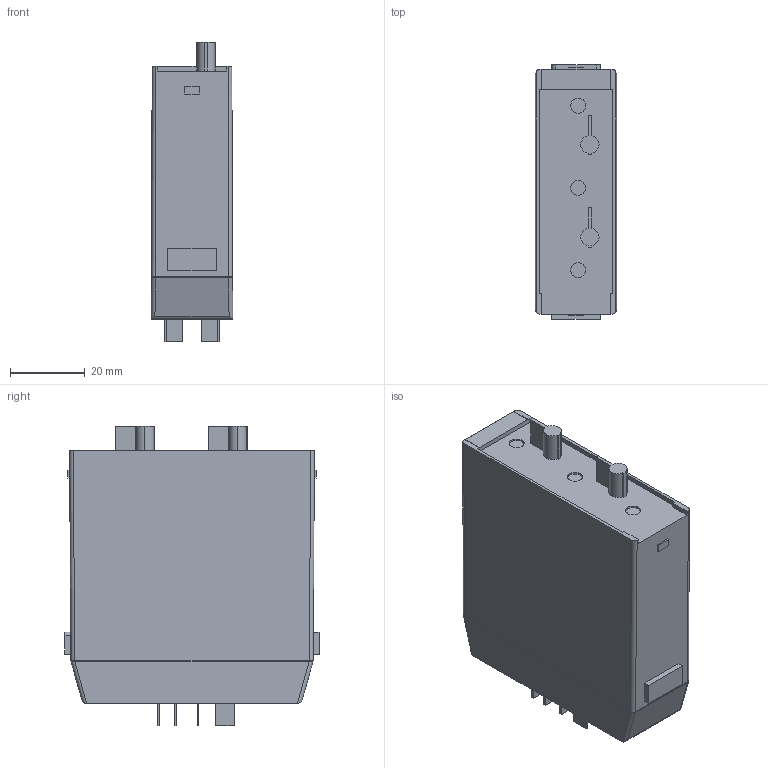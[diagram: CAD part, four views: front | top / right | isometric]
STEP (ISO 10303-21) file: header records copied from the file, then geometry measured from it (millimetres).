
FILE_DESCRIPTION (( 'STEP AP214' ), '1' );
FILE_NAME ('C85.STEP', '2024-04-15T06:54:16', ( '' ), ( '' ), 'SwSTEP 2.0', 'SolidWorks 2022', '' );
FILE_SCHEMA (( 'AUTOMOTIVE_DESIGN' ));
Length unit declared in the file: millimetre
Products named in the file (1): C85
Bounding box: 21.8 x 68 x 80.15 mm (x, y, z)
Volume: 93105.5 mm3; surface area: 15453.1 mm2
Topology: 1 solids, 1 shells, 140 faces, 351 edges, 230 vertices
Faces by surface type: plane 106, cylinder 26, sphere 8
Entity records: 5443 total; most frequent: CARTESIAN_POINT 788, ORIENTED_EDGE 702, DIRECTION 665, EDGE_CURVE 351, LINE 275, VECTOR 275, VERTEX_POINT 230, AXIS2_PLACEMENT_3D 195
